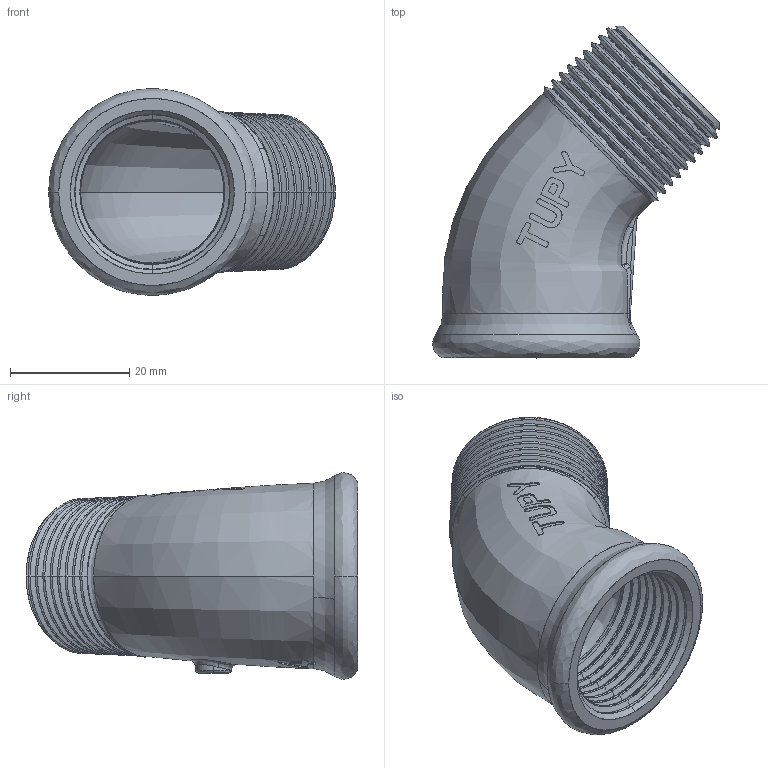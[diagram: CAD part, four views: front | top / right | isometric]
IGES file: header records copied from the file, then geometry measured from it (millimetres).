
Start section: SolidWorks IGES file using analytic representation for surfaces
Global section: file name: C:\Users\Joel Rosa\Desktop\Tubulação\12-10-XXX\12-10-006.IGS; native system: SolidWorks 2011; preprocessor: SolidWorks 2011; author: Joel Rosa; date: 121216.020842; units: millimetre
Bounding box: 48.12 x 55.72 x 34.79 mm (x, y, z)
Surface area: 11132.6 mm2 (no closed solid volume)
Topology: 0 solids, 0 shells, 325 faces, 3343 edges, 3341 vertices
Faces by surface type: bspline 245, revolution 80
